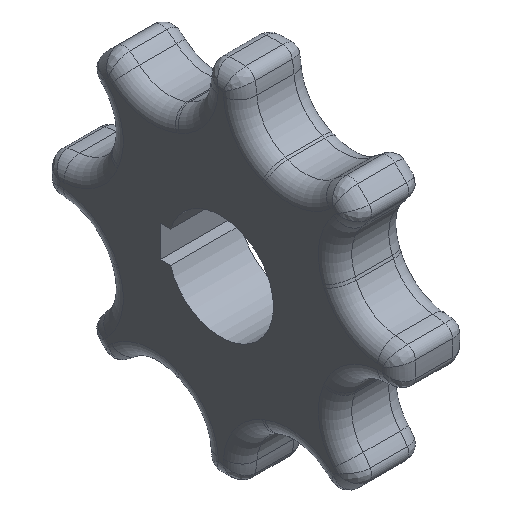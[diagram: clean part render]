
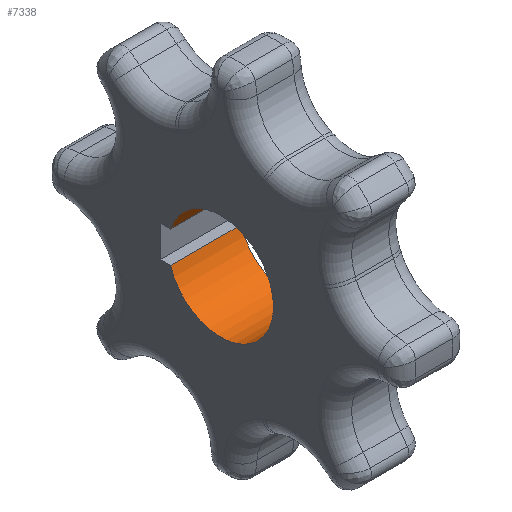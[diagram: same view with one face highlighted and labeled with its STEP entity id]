
A CAD part, isometric view. The second image highlights one B-rep face of the part: STEP entity #7338.
In plain terms, the highlighted cylindrical face has radius 20.003 mm (diameter 40.005 mm), a partial arc.
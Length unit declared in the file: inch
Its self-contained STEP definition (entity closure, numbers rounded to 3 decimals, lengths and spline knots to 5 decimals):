
#5=CARTESIAN_POINT('',(-0.5275,0.,0.));
#6=DIRECTION('',(1.,0.,0.));
#7=DIRECTION('',(0.,0.954,0.3));
#8=AXIS2_PLACEMENT_3D('',#5,#6,#7);
#191=CARTESIAN_POINT('',(0.5275,0.,0.));
#192=DIRECTION('',(1.,0.,0.));
#193=DIRECTION('',(0.,0.954,0.3));
#194=AXIS2_PLACEMENT_3D('',#191,#192,#193);
#2467=DIRECTION('',(-1.,0.,0.));
#2468=VECTOR('',#2467,1.055);
#2469=CARTESIAN_POINT('',(0.5275,0.75131,-0.236));
#2470=LINE('',#2469,#2468);
#2479=DIRECTION('',(-1.,0.,0.));
#2480=VECTOR('',#2479,1.055);
#2481=CARTESIAN_POINT('',(0.5275,0.75131,0.236));
#2482=LINE('',#2481,#2480);
#2483=CARTESIAN_POINT('',(-0.5275,0.75131,-0.236));
#2485=VERTEX_POINT('',#2483);
#2489=CARTESIAN_POINT('',(-0.5275,0.75131,0.236));
#2490=VERTEX_POINT('',#2489);
#2491=CARTESIAN_POINT('',(0.5275,0.75131,-0.236));
#2493=VERTEX_POINT('',#2491);
#2497=CARTESIAN_POINT('',(0.5275,0.75131,0.236));
#2498=VERTEX_POINT('',#2497);
#7327=CARTESIAN_POINT('',(0.642,0.,0.));
#7328=DIRECTION('',(1.,0.,0.));
#7329=DIRECTION('',(0.,0.,-1.));
#7330=AXIS2_PLACEMENT_3D('',#7327,#7328,#7329);
#7331=CYLINDRICAL_SURFACE('',#7330,0.7875);
#7332=ORIENTED_EDGE('',*,*,#7296,.F.);
#7333=ORIENTED_EDGE('',*,*,#3404,.F.);
#7334=ORIENTED_EDGE('',*,*,#7320,.T.);
#7335=ORIENTED_EDGE('',*,*,#3036,.T.);
#7336=EDGE_LOOP('',(#7332,#7333,#7334,#7335));
#7337=FACE_OUTER_BOUND('',#7336,.F.);
#7338=ADVANCED_FACE('',(#7337),#7331,.F.);
#9=CIRCLE('',#8,0.7875);
#195=CIRCLE('',#194,0.7875);
#3036=EDGE_CURVE('',#2490,#2485,#9,.T.);
#3404=EDGE_CURVE('',#2498,#2493,#195,.T.);
#7296=EDGE_CURVE('',#2493,#2485,#2470,.T.);
#7320=EDGE_CURVE('',#2498,#2490,#2482,.T.);
